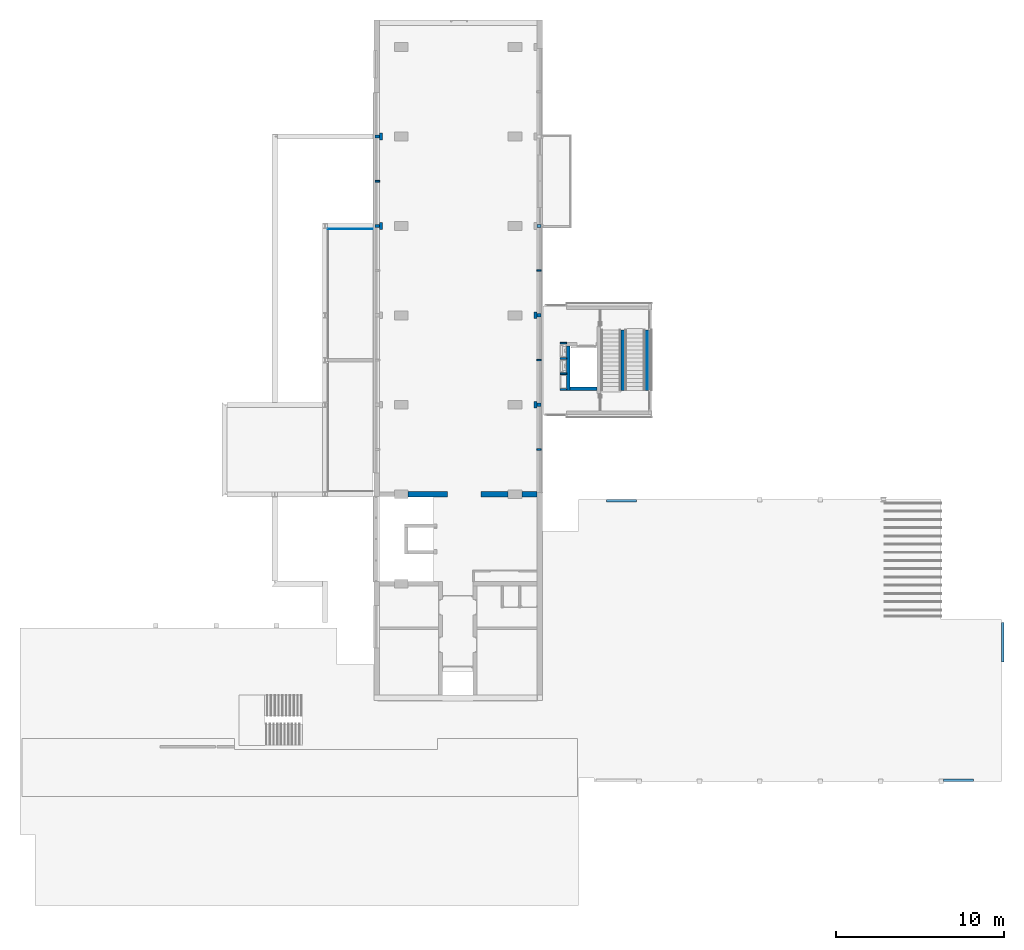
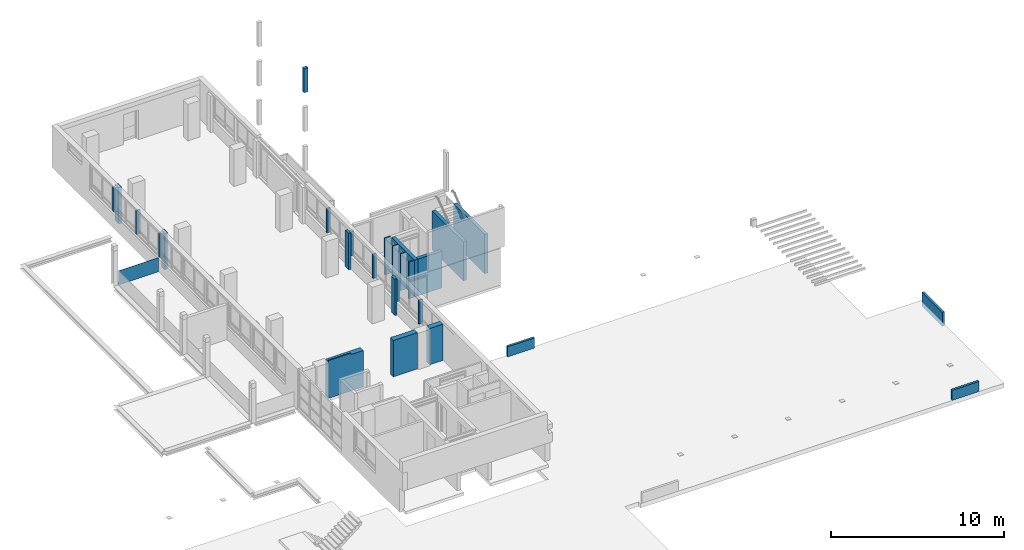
# One storey, part 12 of 22: 27 walls.
"""IFC2X3 building model written with IfcOpenShell, lengths in millimetres."""

from ifc_helpers import new_model, entity, si_unit, converted_unit, derived_unit, money_unit, direction, frame, origin_with_axes, place, context, subcontext, project, spatial, faceted_brep, material, type_object, element, save


model = new_model("IFC2X3")

# Units and contexts
model_context = context("Model", 3, precision=0.01, world=origin_with_axes(), true_north=direction((0.0, 1.0)))
body_context = subcontext(model_context, "Body", "Model", "MODEL_VIEW")
ifc_project = project(units=[si_unit("LENGTHUNIT", "METRE", prefix="MILLI"), si_unit("AREAUNIT", "SQUARE_METRE"), si_unit("VOLUMEUNIT", "CUBIC_METRE"), converted_unit("PLANEANGLEUNIT", "DEGREE", entity("IfcPlaneAngleMeasure", 0.0174532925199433), si_unit("PLANEANGLEUNIT", "RADIAN"), dimensions=[0, 0, 0, 0, 0, 0, 0]), money_unit("EUR"), converted_unit("TIMEUNIT", "Year", entity("IfcTimeMeasure", 31557600.0), si_unit("TIMEUNIT", "SECOND"), dimensions=[0, 0, 1, 0, 0, 0, 0]), si_unit("MASSUNIT", "GRAM", prefix="KILO"), si_unit("THERMODYNAMICTEMPERATUREUNIT", "DEGREE_CELSIUS"), si_unit("LUMINOUSINTENSITYUNIT", "LUMEN"), si_unit("ENERGYUNIT", "JOULE", prefix="MEGA"), derived_unit("THERMALCONDUCTANCEUNIT", [(si_unit("POWERUNIT", "WATT"), 1), (si_unit("LENGTHUNIT", "METRE"), -1), (si_unit("THERMODYNAMICTEMPERATUREUNIT", "KELVIN"), -1)]), derived_unit("SPECIFICHEATCAPACITYUNIT", [(si_unit("ENERGYUNIT", "JOULE"), 1), (si_unit("MASSUNIT", "GRAM", prefix="KILO"), -1), (si_unit("THERMODYNAMICTEMPERATUREUNIT", "KELVIN"), -1)]), derived_unit("MASSDENSITYUNIT", [(si_unit("MASSUNIT", "GRAM", prefix="KILO"), 1), (si_unit("VOLUMEUNIT", "CUBIC_METRE"), -1)])], contexts=[model_context])

# Site, building, storey
site_placement = place(None, origin_with_axes())
site = spatial("IfcSite", under=ifc_project, at=site_placement, Name="Site", CompositionType="ELEMENT")
building_placement = place(site_placement, origin_with_axes())
building = spatial("IfcBuilding", under=site, at=building_placement, Name="Naam gebouw", CompositionType="ELEMENT")
storey_placement = place(building_placement, frame((0.0, 0.0, 8690.0), z_axis=(0.0, 0.0, 1.0), x_axis=(1.0, 0.0, 0.0)))
storey = spatial("IfcBuildingStorey", under=building, at=storey_placement, Name="2e verdieping V", CompositionType="ELEMENT", Elevation=8690.0)

# Walls
ifc_material_1 = material(Name="ALG - CONSTRUCTIEF")
wall_type_1 = type_object("IfcWallType", Name="ALG - CONSTRUCTIEF 400", PredefinedType="NOTDEFINED")
wall_1_placement = place(storey_placement, frame((29745.0, 38615.91242510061, -99.99999999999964), z_axis=(0.0, 0.0, 1.0), x_axis=(1.0, 0.0, 0.0)))
element("IfcWall", 1, at=wall_1_placement, inside=storey, type_object=wall_type_1, material=ifc_material_1, Name="_Wand-x", context=body_context, shape_type="Brep", body=[
    faceted_brep([(0.0, 200.0000000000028, 99.99999999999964), (0.0, 200.0000000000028, 2670.000000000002), (161.0000000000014, 200.0000000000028, 2670.000000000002), (161.0000000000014, 200.0000000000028, 99.99999999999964), (0.0, -200.0000000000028, 99.99999999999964), (0.0, -200.0000000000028, 2670.000000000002), (161.0000000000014, -199.9999999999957, 2670.000000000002), (161.0000000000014, -200.0000000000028, 99.99999999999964)], [[[0, 1, 2, 3]], [[4, 5, 1, 0]], [[5, 6, 2, 1]], [[3, 2, 6, 7]], [[4, 0, 3, 7]], [[7, 6, 5, 4]]]),
])
wall_2_placement = place(storey_placement, frame((20536.0, 43945.9124251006, -99.99999999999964), z_axis=(0.0, 0.0, 1.0), x_axis=(1.0, 0.0, 0.0)))
element("IfcWall", 2, at=wall_2_placement, inside=storey, type_object=wall_type_1, material=ifc_material_1, Name="_Wand-x", context=body_context, shape_type="Brep", body=[
    faceted_brep([(189.0000000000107, 199.9999999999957, 99.99999999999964), (0.0, 200.0000000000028, 99.99999999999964), (0.0, 200.0000000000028, 2670.000000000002), (189.0000000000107, 199.9999999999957, 2670.000000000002), (188.9999999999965, -200.0000000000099, 99.99999999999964), (0.0, -200.0000000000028, 99.99999999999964), (0.0, -200.0000000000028, 2670.000000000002), (188.9999999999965, -200.0000000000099, 2670.000000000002)], [[[0, 1, 2, 3]], [[4, 5, 1, 0]], [[1, 5, 6, 2]], [[2, 6, 7, 3]], [[4, 0, 3, 7]], [[5, 4, 7, 6]]]),
])
wall_3_placement = place(storey_placement, frame((20536.0, 49275.9124251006, -99.99999999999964), z_axis=(0.0, 0.0, 1.0), x_axis=(1.0, 0.0, 0.0)))
element("IfcWall", 3, at=wall_3_placement, inside=storey, type_object=wall_type_1, material=ifc_material_1, Name="_Wand-x", context=body_context, shape_type="Brep", body=[
    faceted_brep([(188.9999999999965, 200.0000000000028, 99.99999999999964), (0.0, 200.0000000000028, 99.99999999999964), (0.0, 200.0000000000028, 2670.000000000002), (188.9999999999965, 200.0000000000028, 2670.000000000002), (188.9999999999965, -200.0000000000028, 99.99999999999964), (0.0, -200.0000000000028, 99.99999999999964), (0.0, -200.0000000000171, 2670.000000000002), (188.9999999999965, -200.0000000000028, 2670.000000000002)], [[[0, 1, 2, 3]], [[4, 5, 1, 0]], [[1, 5, 6, 2]], [[2, 6, 7, 3]], [[4, 0, 3, 7]], [[5, 4, 7, 6]]]),
])
wall_4_placement = place(storey_placement, frame((29745.0, 33285.91242510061, -99.99999999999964), z_axis=(0.0, 0.0, 1.0), x_axis=(1.0, 0.0, 0.0)))
element("IfcWall", 4, at=wall_4_placement, inside=storey, type_object=wall_type_1, material=ifc_material_1, Name="_Wand-x", context=body_context, shape_type="Brep", body=[
    faceted_brep([(0.0, 200.0000000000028, 99.99999999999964), (0.0, 200.0000000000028, 2670.000000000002), (160.9999999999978, 200.0000000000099, 2670.000000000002), (160.9999999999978, 200.0000000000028, 99.99999999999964), (0.0, -200.0000000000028, 99.99999999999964), (0.0, -200.0000000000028, 2670.000000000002), (160.9999999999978, -199.9999999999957, 2670.000000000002), (160.9999999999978, -200.0000000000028, 99.99999999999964)], [[[0, 1, 2, 3]], [[4, 5, 1, 0]], [[5, 6, 2, 1]], [[3, 2, 6, 7]], [[4, 0, 3, 7]], [[7, 6, 5, 4]]]),
])
wall_type_2 = type_object("IfcWallType", Name="ALG - CONSTRUCTIEF 350", PredefinedType="NOTDEFINED")
wall_5_placement = place(storey_placement, frame((26586.0, 27955.91242510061, 0.0), z_axis=(0.0, 0.0, 1.0), x_axis=(1.0, 0.0, 0.0)))
element("IfcWall", 5, at=wall_5_placement, inside=storey, type_object=wall_type_2, material=ifc_material_1, Name="_Wand-x", context=body_context, shape_type="Brep", body=[
    faceted_brep([(0.0, -175.0000000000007, 2570.000000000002), (1609.999999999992, -175.0000000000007, 2570.000000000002), (1609.999999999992, 175.0000000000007, 2570.000000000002), (0.0, 175.0000000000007, 2570.000000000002), (0.0, -175.0000000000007, 0.0), (1609.999999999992, -175.0000000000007, 0.0), (1609.999999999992, 175.0000000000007, 0.0), (0.0, 175.0000000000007, 0.0)], [[[0, 1, 2, 3]], [[4, 5, 1, 0]], [[5, 6, 2, 1]], [[3, 2, 6, 7]], [[3, 7, 4, 0]], [[7, 6, 5, 4]]]),
    faceted_brep([(3319.999999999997, 175.0000000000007, 0.0), (2429.999999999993, 175.0000000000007, 0.0), (2429.999999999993, 175.0000000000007, 2570.000000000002), (3319.999999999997, 175.0000000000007, 2570.000000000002), (3319.999999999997, -175.0000000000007, 0.0), (2429.999999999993, -175.0000000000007, 0.0), (2429.999999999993, -174.9999999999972, 2570.000000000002), (3319.999999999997, -174.9999999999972, 2570.000000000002)], [[[0, 1, 2, 3]], [[4, 5, 1, 0]], [[5, 6, 2, 1]], [[3, 2, 6, 7]], [[0, 3, 7, 4]], [[7, 6, 5, 4]]]),
])
wall_6_placement = place(storey_placement, frame((22189.99999999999, 27955.91242510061, 0.0), z_axis=(0.0, 0.0, 1.0), x_axis=(1.0, 0.0, 0.0)))
element("IfcWall", 6, at=wall_6_placement, inside=storey, type_object=wall_type_2, material=ifc_material_1, Name="_Wand-x", context=body_context, shape_type="Brep", body=[
    faceted_brep([(2399.999999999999, 175.0000000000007, 0.0), (56.00000000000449, 175.0000000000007, 0.0), (56.00000000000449, 175.0000000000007, 2570.000000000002), (2399.999999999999, 175.0000000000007, 2570.000000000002), (2399.999999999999, -175.0000000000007, 0.0), (56.00000000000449, -175.0000000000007, 0.0), (56.00000003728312, -124.9999994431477, 2670.000000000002), (56.00000000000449, -124.9999994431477, 2570.000000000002), (56.00000003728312, -175.0000000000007, 2670.000000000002), (1559.999999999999, -124.9999998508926, 2570.000000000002), (1559.999999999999, -175.0000000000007, 2570.000000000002), (2399.999999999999, -175.0000000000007, 2570.000000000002), (1559.999999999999, -175.0000000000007, 2670.000000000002), (1559.999999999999, -124.9999998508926, 2670.000000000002)], [[[0, 1, 2, 3]], [[4, 5, 1, 0]], [[6, 7, 2, 1, 5, 8]], [[3, 2, 7, 9, 10, 11]], [[4, 0, 3, 11]], [[8, 5, 4, 11, 10, 12]], [[7, 6, 13, 9]], [[6, 8, 12, 13]], [[12, 10, 9, 13]]]),
])
wall_type_3 = type_object("IfcWallType", Name="ALG - CONSTRUCTIEF 146", PredefinedType="NOTDEFINED")
wall_7_placement = place(storey_placement, frame((57599.99999999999, 20325.9124251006, -1339.999999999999), z_axis=(0.0, 0.0, 1.0), x_axis=(0.0, -1.0, 0.0)))
element("IfcWall", 7, at=wall_7_placement, inside=storey, type_object=wall_type_3, material=ifc_material_1, Name="_Wand-x", context=body_context, shape_type="Brep", body=[
    faceted_brep([(0.0, 146.0000000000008, 0.0), (2354.999999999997, 146.0000000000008, 0.0), (2354.999999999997, 0.0, 0.0), (0.0, 0.0, 0.0), (0.0, 146.0000000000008, 986.5000000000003), (2354.999999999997, 146.0000000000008, 986.5000000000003), (2354.999999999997, 0.0, 986.5000000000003), (0.0, 0.0, 986.5000000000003)], [[[0, 1, 2, 3]], [[4, 5, 1, 0]], [[2, 1, 5, 6]], [[3, 2, 6, 7]], [[4, 0, 3, 7]], [[7, 6, 5, 4]]]),
])
wall_8_placement = place(storey_placement, frame((55937.49999999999, 10990.91242510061, -1040.0), z_axis=(0.0, 0.0, 1.0), x_axis=(-1.0, 0.0, 0.0)))
element("IfcWall", 8, at=wall_8_placement, inside=storey, type_object=wall_type_3, material=ifc_material_1, Name="_Wand-x", context=body_context, shape_type="Brep", body=[
    faceted_brep([(0.0, 146.0000000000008, 0.0), (1799.999999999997, 145.999999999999, 0.0), (1799.999999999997, 0.0, 0.0), (0.0, 0.0, 0.0), (0.0, 146.0000000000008, 720.0000000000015), (1799.999999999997, 146.0000000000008, 720.0000000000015), (1799.999999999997, 0.0, 720.0000000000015), (0.0, 0.0, 720.0000000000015)], [[[0, 1, 2, 3]], [[4, 5, 1, 0]], [[2, 1, 5, 6]], [[3, 2, 6, 7]], [[4, 0, 3, 7]], [[7, 6, 5, 4]]]),
])
wall_9_placement = place(storey_placement, frame((35862.49999999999, 27505.91242510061, -1039.999999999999), z_axis=(0.0, 0.0, 1.0), x_axis=(-1.0, 0.0, 0.0)))
element("IfcWall", 9, at=wall_9_placement, inside=storey, type_object=wall_type_3, material=ifc_material_1, Name="_Wand-x", context=body_context, shape_type="Brep", body=[
    faceted_brep([(0.0, -146.0000000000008, 720.0000000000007), (1799.99999999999, -146.0000000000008, 720.0000000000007), (1799.99999999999, 0.0, 720.0000000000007), (0.0, 0.0, 720.0000000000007), (0.0, -146.0000000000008, 0.0), (1799.99999999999, -146.0000000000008, 0.0), (1799.99999999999, 0.0, 0.0), (0.0, 0.0, 0.0)], [[[0, 1, 2, 3]], [[4, 5, 1, 0]], [[2, 1, 5, 6]], [[3, 2, 6, 7]], [[4, 0, 3, 7]], [[7, 6, 5, 4]]]),
])
ifc_material_2 = material(Name="kalkzandsteen")
wall_type_4 = type_object("IfcWallType", Name="Basic Wall:NLRS_28_kalkzandsteen 100mm", PredefinedType="STANDARD")
wall_10_placement = place(storey_placement, frame((31684.00000003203, 36963.91242631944, 0.0), z_axis=(0.0, 0.0, 1.0), x_axis=(-1.0, -1.481110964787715e-10, 0.0)))
element("IfcWall", 10, at=wall_10_placement, inside=storey, type_object=wall_type_4, material=ifc_material_2, Name="Basic Wall:NLRS_28_kalkzandsteen 100mm", context=body_context, shape_type="Brep", body=[
    faceted_brep([(7.407408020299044e-09, 50.00000004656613, 0.0), (392.9999999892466, 49.99999998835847, 0.0), (392.9999999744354, -50.00000004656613, 0.0), (-7.403855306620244e-09, -49.99999998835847, 0.0), (7.407408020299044e-09, 50.00000004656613, 2600.000000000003), (392.9999999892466, 49.99999998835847, 2600.000000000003), (392.9999999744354, -50.00000004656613, 2600.000000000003), (-7.403855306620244e-09, -49.99999998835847, 2600.000000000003)], [[[0, 1, 2, 3]], [[4, 5, 1, 0]], [[2, 1, 5, 6]], [[3, 2, 6, 7]], [[4, 0, 3, 7]], [[7, 6, 5, 4]]]),
])
wall_11_placement = place(storey_placement, frame((31791.00000002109, 36049.91242627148, 0.0), z_axis=(0.0, 0.0, 1.0), x_axis=(-1.0, 0.0, 0.0)))
element("IfcWall", 11, at=wall_11_placement, inside=storey, type_object=wall_type_4, material=ifc_material_2, Name="Basic Wall:NLRS_28_kalkzandsteen 100mm", context=body_context, shape_type="Brep", body=[
    faceted_brep([(106.999999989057, 49.99999998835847, 0.0), (499.9999999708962, 49.99999998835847, 0.0), (499.9999999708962, -49.99999998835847, 0.0), (106.999999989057, -49.99999998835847, 0.0), (106.999999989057, 49.99999998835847, 2600.000000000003), (499.9999999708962, 49.99999998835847, 2600.000000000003), (499.9999999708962, -49.99999998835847, 2600.000000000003), (106.999999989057, -49.99999998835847, 2600.000000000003)], [[[0, 1, 2, 3]], [[4, 5, 1, 0]], [[2, 1, 5, 6]], [[3, 2, 6, 7]], [[4, 0, 3, 7]], [[7, 6, 5, 4]]]),
])
wall_12_placement = place(storey_placement, frame((31791.00000002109, 35135.91242628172, 0.0), z_axis=(0.0, 0.0, 1.0), x_axis=(-1.0, 0.0, 0.0)))
element("IfcWall", 12, at=wall_12_placement, inside=storey, type_object=wall_type_4, material=ifc_material_2, Name="Basic Wall:NLRS_28_kalkzandsteen 100mm", context=body_context, shape_type="Brep", body=[
    faceted_brep([(106.999999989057, 50.00000004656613, 0.0), (499.9999999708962, 50.00000004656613, 0.0), (499.9999999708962, -50.00000004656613, 0.0), (106.999999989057, -50.00000004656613, 0.0), (106.999999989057, 50.00000004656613, 2600.000000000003), (499.9999999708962, 50.00000004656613, 2600.000000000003), (499.9999999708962, -50.00000004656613, 2600.000000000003), (106.999999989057, -50.00000004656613, 2600.000000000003)], [[[0, 1, 2, 3]], [[4, 5, 1, 0]], [[2, 1, 5, 6]], [[3, 2, 6, 7]], [[4, 0, 3, 7]], [[7, 6, 5, 4]]]),
])
wall_13_placement = place(storey_placement, frame((31684.00000000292, 34195.9124263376, 0.0), z_axis=(0.0, 0.0, 1.0), x_axis=(-1.0, 0.0, 0.0)))
element("IfcWall", 13, at=wall_13_placement, inside=storey, type_object=wall_type_4, material=ifc_material_2, Name="Basic Wall:NLRS_28_kalkzandsteen 100mm", context=body_context, shape_type="Brep", body=[
    faceted_brep([(0.0, 49.99999998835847, 0.0), (392.9999999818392, 49.99999998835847, 0.0), (392.9999999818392, -50.00000004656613, 0.0), (0.0, -50.00000004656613, 0.0), (0.0, 49.99999998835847, 2600.000000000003), (392.9999999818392, 49.99999998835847, 2600.000000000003), (392.9999999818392, -50.00000004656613, 2600.000000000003), (0.0, -50.00000004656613, 2600.000000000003)], [[[0, 1, 2, 3]], [[4, 5, 1, 0]], [[2, 1, 5, 6]], [[3, 2, 6, 7]], [[4, 0, 3, 7]], [[7, 6, 5, 4]]]),
])
wall_type_5 = type_object("IfcWallType", Name="Basic Wall:NLRS_28_kalkzandsteen 214mm", PredefinedType="STANDARD")
wall_14_placement = place(storey_placement, frame((33605.00000000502, 34252.91242630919, 0.0), z_axis=(0.0, 0.0, 1.0), x_axis=(-1.0, 0.0, 0.0)))
element("IfcWall", 14, at=wall_14_placement, inside=storey, type_object=wall_type_5, material=ifc_material_2, Name="Basic Wall:NLRS_28_kalkzandsteen 214mm", context=body_context, shape_type="Brep", body=[
    faceted_brep([(1706.999999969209, 106.9999999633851, 0.0), (1706.999999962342, -107.0000000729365, 0.0), (107.0000000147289, -107.0000000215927, 0.0), (107.0000000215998, 107.0000000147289, 0.0), (1706.999999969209, 106.9999999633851, 2600.000000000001), (1706.999999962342, -107.0000000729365, 2600.000000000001), (107.0000000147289, -107.0000000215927, 2600.000000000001), (107.0000000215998, 107.0000000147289, 2600.000000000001)], [[[0, 1, 2, 3]], [[1, 0, 4, 5]], [[1, 5, 6, 2]], [[7, 3, 2, 6]], [[4, 0, 3, 7]], [[5, 4, 7, 6]]]),
])
wall_15_placement = place(storey_placement, frame((35039.00000004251, 34145.91242629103, 0.0), z_axis=(0.0, 0.0, 1.0), x_axis=(0.0, 1.0, 0.0)))
element("IfcWall", 15, at=wall_15_placement, inside=storey, type_object=wall_type_5, material=ifc_material_2, Name="Basic Wall:NLRS_28_kalkzandsteen 214mm", context=body_context, shape_type="Brep", body=[
    faceted_brep([(0.0, 106.999999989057, 0.0), (3599.999999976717, 106.999999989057, 0.0), (3599.999999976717, -107.0000000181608, 0.0), (0.0, -107.0000000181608, 0.0), (0.0, 106.999999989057, 2770.000000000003), (3599.999999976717, 106.999999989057, 2770.000000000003), (3599.999999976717, -107.0000000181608, 2770.000000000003), (0.0, -107.0000000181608, 2770.000000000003)], [[[0, 1, 2, 3]], [[4, 5, 1, 0]], [[2, 1, 5, 6]], [[3, 2, 6, 7]], [[4, 0, 3, 7]], [[7, 6, 5, 4]]]),
])
wall_16_placement = place(storey_placement, frame((31791.00000002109, 36906.91242628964, 0.0), z_axis=(0.0, 0.0, 1.0), x_axis=(0.0, -1.0, 0.0)))
element("IfcWall", 16, at=wall_16_placement, inside=storey, type_object=wall_type_5, material=ifc_material_2, Name="Basic Wall:NLRS_28_kalkzandsteen 214mm", context=body_context, shape_type="Brep", body=[
    faceted_brep([(2761.000000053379, 107.0000000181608, 0.0), (107.0000001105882, 107.0000000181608, 0.0), (107.0000000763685, 107.0000000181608, 2600.000000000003), (2761.000000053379, 107.0000000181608, 2600.000000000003), (2761.000000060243, -106.999999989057, 0.0), (107.0000000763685, -106.999999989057, 0.0), (107.0000000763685, -106.999999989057, 2600.000000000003), (2761.000000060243, -106.999999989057, 2600.000000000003)], [[[0, 1, 2, 3]], [[4, 5, 1, 0]], [[5, 6, 2, 1]], [[3, 2, 6, 7]], [[4, 0, 3, 7]], [[7, 6, 5, 4]]]),
])
wall_17_placement = place(storey_placement, frame((36473.00000005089, 37745.91242626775, 0.0), z_axis=(0.0, 0.0, 1.0), x_axis=(0.0, -1.0, 0.0)))
element("IfcWall", 17, at=wall_17_placement, inside=storey, type_object=wall_type_5, material=ifc_material_2, Name="Basic Wall:NLRS_28_kalkzandsteen 214mm", context=body_context, shape_type="Brep", body=[
    faceted_brep([(0.0, 106.999999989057, 0.0), (3599.999999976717, 106.999999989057, 0.0), (3599.999999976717, -107.0000000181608, 0.0), (0.0, -107.0000000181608, 0.0), (0.0, 106.999999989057, 2770.000000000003), (3599.999999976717, 106.999999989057, 2770.000000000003), (3599.999999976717, -107.0000000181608, 2770.000000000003), (0.0, -107.0000000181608, 2770.000000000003)], [[[0, 1, 2, 3]], [[4, 5, 1, 0]], [[2, 1, 5, 6]], [[3, 2, 6, 7]], [[4, 0, 3, 7]], [[7, 6, 5, 4]]]),
])
wall_type_6 = type_object("IfcWallType", Name="ALG - CONSTRUCTIEF 260", PredefinedType="NOTDEFINED")
wall_18_placement = place(storey_placement, frame((20276.0, 46560.94495551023, 849.9999999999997), z_axis=(0.0, 0.0, 1.0), x_axis=(0.0, 1.0, 0.0)))
element("IfcWall", 18, at=wall_18_placement, inside=storey, type_object=wall_type_6, material=ifc_material_1, Name="_Wand-x", context=body_context, shape_type="Brep", body=[
    faceted_brep([(100.0000000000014, 0.0, 0.0), (100.0000000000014, 0.0, 15.60184484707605), (100.0000000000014, -7.00000000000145, 16.83613371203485), (100.0000000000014, -7.00000000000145, 28.51433297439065), (100.0000000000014, -4.999999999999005, 28.51433297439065), (100.0000000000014, -4.999999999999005, 18.51433297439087), (100.0000000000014, 0.0, 17.63269807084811), (100.0000000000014, 0.0, 1699.999999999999), (99.99999999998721, -260.0000000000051, 1699.999999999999), (99.99999999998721, -260.0000000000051, 0.0), (0.0, 0.0, 0.0), (0.0, 0.0, 15.60184484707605), (0.0, -6.999999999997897, 16.83613371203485), (0.0, -6.999999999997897, 28.51433297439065), (0.0, -4.999999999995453, 28.51433297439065), (0.0, -4.999999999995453, 18.51433297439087), (0.0, 0.0, 17.63269807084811), (0.0, 0.0, 1699.999999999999), (0.0, -260.0000000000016, 1699.999999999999), (0.0, -260.0000000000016, 0.0)], [[[0, 1, 2, 3, 4, 5, 6, 7, 8, 9]], [[10, 11, 1, 0]], [[12, 2, 1, 11]], [[13, 3, 2, 12]], [[14, 4, 3, 13]], [[15, 5, 4, 14]], [[16, 6, 5, 15]], [[7, 6, 16, 17]], [[17, 18, 8, 7]], [[18, 19, 9, 8]], [[19, 10, 0, 9]], [[13, 12, 11, 10, 19, 18, 17, 16, 15, 14]]]),
])
wall_19_placement = place(storey_placement, frame((30166.0, 41230.9124251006, 849.9999999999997), z_axis=(0.0, 0.0, 1.0), x_axis=(0.0, 1.0, 0.0)))
element("IfcWall", 19, at=wall_19_placement, inside=storey, type_object=wall_type_6, material=ifc_material_1, Name="_Wand-x", context=body_context, shape_type="Brep", body=[
    faceted_brep([(0.0, 0.0, 1699.999999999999), (0.0, 0.0, 17.63269807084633), (100.0000000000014, 0.0, 17.63269807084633), (100.0000000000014, 0.0, 1699.999999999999), (0.0, 5.000000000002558, 28.51433297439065), (0.0, 5.000000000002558, 18.51433297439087), (0.0, 260.0000000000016, 1699.999999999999), (0.0, 260.0000000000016, 0.0), (0.0, 0.0, 0.0), (0.0, 0.0, 15.60184484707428), (0.0, 7.000000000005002, 16.83613371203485), (0.0, 7.000000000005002, 28.51433297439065), (100.0000000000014, 5.000000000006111, 18.51433297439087), (100.0000000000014, 7.000000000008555, 28.51433297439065), (100.0000000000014, 7.000000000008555, 16.83613371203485), (100.0000000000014, 0.0, 15.60184484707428), (100.0000000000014, 0.0, 0.0), (99.99999999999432, 260.0000000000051, 0.0), (99.99999999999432, 260.0000000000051, 1699.999999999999), (100.0000000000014, 5.000000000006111, 28.51433297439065)], [[[0, 1, 2, 3]], [[4, 5, 1, 0, 6, 7, 8, 9, 10, 11]], [[5, 12, 2, 1]], [[13, 14, 15, 16, 17, 18, 3, 2, 12, 19]], [[6, 0, 3, 18]], [[4, 19, 12, 5]], [[7, 6, 18, 17]], [[8, 7, 17, 16]], [[16, 15, 9, 8]], [[10, 9, 15, 14]], [[10, 14, 13, 11]], [[11, 13, 19, 4]]]),
])
wall_20_placement = place(storey_placement, frame((30166.0, 43845.91242510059, 9159.999999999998), z_axis=(0.0, 0.0, 1.0), x_axis=(0.0, 1.0, 0.0)))
element("IfcWall", 20, at=wall_20_placement, inside=storey, type_object=wall_type_6, material=ifc_material_1, Name="_Wand-x", context=body_context, shape_type="Brep", body=[
    faceted_brep([(0.0, 0.0, 1699.999999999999), (0.0, 0.0, 17.63269807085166), (199.9999999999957, 0.0, 17.63269807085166), (199.9999999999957, 0.0, 1699.999999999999), (0.0, 5.000000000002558, 28.51433297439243), (0.0, 5.000000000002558, 18.51433297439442), (0.0, 260.0000000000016, 1699.999999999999), (0.0, 260.0000000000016, 0.0), (0.0, 0.0, 0.0), (0.0, 0.0, 15.6018448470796), (0.0, 7.000000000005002, 16.83613371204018), (0.0, 7.000000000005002, 28.51433297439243), (199.9999999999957, 5.000000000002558, 18.51433297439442), (199.9999999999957, 7.000000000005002, 28.51433297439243), (199.9999999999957, 7.000000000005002, 16.83613371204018), (199.9999999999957, 0.0, 15.6018448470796), (199.9999999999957, 0.0, 0.0), (199.9999999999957, 260.0000000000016, 0.0), (199.9999999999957, 260.0000000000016, 1699.999999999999), (199.9999999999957, 5.000000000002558, 28.51433297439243)], [[[0, 1, 2, 3]], [[4, 5, 1, 0, 6, 7, 8, 9, 10, 11]], [[5, 12, 2, 1]], [[13, 14, 15, 16, 17, 18, 3, 2, 12, 19]], [[6, 0, 3, 18]], [[4, 19, 12, 5]], [[7, 6, 18, 17]], [[8, 7, 17, 16]], [[16, 15, 9, 8]], [[10, 9, 15, 14]], [[10, 14, 13, 11]], [[11, 13, 19, 4]]]),
])
wall_21_placement = place(storey_placement, frame((20276.0, 43845.91242510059, 849.9999999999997), z_axis=(0.0, 0.0, 1.0), x_axis=(0.0, 1.0, 0.0)))
element("IfcWall", 21, at=wall_21_placement, inside=storey, type_object=wall_type_6, material=ifc_material_1, Name="_Wand-x", context=body_context, shape_type="Brep", body=[
    faceted_brep([(200.0000000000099, 0.0, 0.0), (200.0000000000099, 0.0, 15.60184484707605), (200.0000000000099, -6.999999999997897, 16.83613371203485), (200.0000000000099, -6.999999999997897, 28.51433297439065), (200.0000000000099, -4.999999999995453, 28.51433297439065), (200.0000000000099, -4.999999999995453, 18.51433297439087), (200.0000000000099, 0.0, 17.63269807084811), (200.0000000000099, 0.0, 1699.999999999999), (200.0000000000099, -260.0000000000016, 1699.999999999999), (200.0000000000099, -260.0000000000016, 0.0), (0.0, 0.0, 0.0), (0.0, 0.0, 15.60184484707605), (0.0, -6.999999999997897, 16.83613371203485), (0.0, -6.999999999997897, 28.51433297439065), (0.0, -4.999999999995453, 28.51433297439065), (0.0, -4.999999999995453, 18.51433297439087), (0.0, 0.0, 17.63269807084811), (0.0, 0.0, 1699.999999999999), (0.0, -260.0000000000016, 1699.999999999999), (0.0, -260.0000000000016, 0.0)], [[[0, 1, 2, 3, 4, 5, 6, 7, 8, 9]], [[10, 11, 1, 0]], [[12, 2, 1, 11]], [[13, 3, 2, 12]], [[14, 4, 3, 13]], [[15, 5, 4, 14]], [[16, 6, 5, 15]], [[7, 6, 16, 17]], [[17, 18, 8, 7]], [[18, 19, 9, 8]], [[19, 10, 0, 9]], [[13, 12, 11, 10, 19, 18, 17, 16, 15, 14]]]),
])
wall_22_placement = place(storey_placement, frame((30166.0, 38515.9124251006, 849.9999999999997), z_axis=(0.0, 0.0, 1.0), x_axis=(0.0, 1.0, 0.0)))
element("IfcWall", 22, at=wall_22_placement, inside=storey, type_object=wall_type_6, material=ifc_material_1, Name="_Wand-x", context=body_context, shape_type="Brep", body=[
    faceted_brep([(0.0, 0.0, 1699.999999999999), (0.0, 0.0, 17.63269807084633), (199.9999999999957, 0.0, 17.63269807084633), (199.9999999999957, 0.0, 1699.999999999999), (0.0, 5.000000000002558, 28.51433297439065), (0.0, 5.000000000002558, 18.51433297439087), (0.0, 260.0000000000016, 1699.999999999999), (0.0, 260.0000000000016, 0.0), (0.0, 0.0, 0.0), (0.0, 0.0, 15.60184484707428), (0.0, 7.000000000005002, 16.83613371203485), (0.0, 7.000000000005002, 28.51433297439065), (199.9999999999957, 5.000000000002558, 18.51433297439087), (199.9999999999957, 7.000000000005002, 28.51433297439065), (199.9999999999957, 7.000000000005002, 16.83613371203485), (199.9999999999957, 0.0, 15.60184484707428), (199.9999999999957, 0.0, 0.0), (199.9999999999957, 260.0000000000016, 0.0), (199.9999999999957, 260.0000000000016, 1699.999999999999), (199.9999999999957, 5.000000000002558, 28.51433297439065)], [[[0, 1, 2, 3]], [[4, 5, 1, 0, 6, 7, 8, 9, 10, 11]], [[5, 12, 2, 1]], [[13, 14, 15, 16, 17, 18, 3, 2, 12, 19]], [[6, 0, 3, 18]], [[4, 19, 12, 5]], [[7, 6, 18, 17]], [[8, 7, 17, 16]], [[16, 15, 9, 8]], [[10, 9, 15, 14]], [[10, 14, 13, 11]], [[11, 13, 19, 4]]]),
])
wall_23_placement = place(storey_placement, frame((30166.0, 35900.91242510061, 849.9999999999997), z_axis=(0.0, 0.0, 1.0), x_axis=(0.0, 1.0, 0.0)))
element("IfcWall", 23, at=wall_23_placement, inside=storey, type_object=wall_type_6, material=ifc_material_1, Name="_Wand-x", context=body_context, shape_type="Brep", body=[
    faceted_brep([(0.0, 0.0, 1699.999999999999), (0.0, 0.0, 17.63269807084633), (100.0000000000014, 0.0, 17.63269807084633), (100.0000000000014, 0.0, 1699.999999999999), (0.0, 5.000000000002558, 28.51433297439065), (0.0, 5.000000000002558, 18.51433297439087), (0.0, 260.0000000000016, 1699.999999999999), (0.0, 260.0000000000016, 0.0), (0.0, 0.0, 0.0), (0.0, 0.0, 15.60184484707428), (0.0, 7.000000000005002, 16.83613371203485), (0.0, 7.000000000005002, 28.51433297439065), (100.0000000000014, 5.000000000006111, 18.51433297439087), (100.0000000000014, 7.000000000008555, 28.51433297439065), (100.0000000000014, 7.000000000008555, 16.83613371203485), (100.0000000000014, 0.0, 15.60184484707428), (100.0000000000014, 0.0, 0.0), (99.99999999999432, 260.0000000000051, 0.0), (99.99999999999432, 260.0000000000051, 1699.999999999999), (100.0000000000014, 5.000000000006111, 28.51433297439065)], [[[0, 1, 2, 3]], [[4, 5, 1, 0, 6, 7, 8, 9, 10, 11]], [[5, 12, 2, 1]], [[13, 14, 15, 16, 17, 18, 3, 2, 12, 19]], [[6, 0, 3, 18]], [[4, 19, 12, 5]], [[7, 6, 18, 17]], [[8, 7, 17, 16]], [[16, 15, 9, 8]], [[10, 9, 15, 14]], [[10, 14, 13, 11]], [[11, 13, 19, 4]]]),
])
wall_24_placement = place(storey_placement, frame((20276.0, 49175.94495551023, 849.9999999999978), z_axis=(0.0, 0.0, 1.0), x_axis=(0.0, 1.0, 0.0)))
element("IfcWall", 24, at=wall_24_placement, inside=storey, type_object=wall_type_6, material=ifc_material_1, Name="_Wand-x", context=body_context, shape_type="Brep", body=[
    faceted_brep([(199.9349391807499, 0.0, 0.0), (199.9349391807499, 0.0, 15.60184484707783), (199.9349391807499, -7.00000000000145, 16.83613371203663), (199.9349391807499, -7.00000000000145, 28.51433297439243), (199.9349391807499, -4.999999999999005, 28.51433297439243), (199.9349391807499, -4.999999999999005, 18.51433297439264), (199.9349391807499, 0.0, 17.63269807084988), (199.9349391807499, 0.0, 1700.000000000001), (199.9349391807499, -260.0000000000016, 1700.000000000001), (199.9349391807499, -260.0000000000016, 0.0), (0.0, 0.0, 0.0), (0.0, 0.0, 15.60184484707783), (0.0, -7.00000000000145, 16.83613371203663), (0.0, -7.00000000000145, 28.51433297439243), (0.0, -4.999999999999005, 28.51433297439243), (0.0, -4.999999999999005, 18.51433297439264), (0.0, 0.0, 17.63269807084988), (0.0, 0.0, 1700.000000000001), (0.0, -260.0000000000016, 1700.000000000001), (0.0, -260.0000000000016, 0.0)], [[[0, 1, 2, 3, 4, 5, 6, 7, 8, 9]], [[10, 11, 1, 0]], [[12, 2, 1, 11]], [[13, 3, 2, 12]], [[14, 4, 3, 13]], [[15, 5, 4, 14]], [[16, 6, 5, 15]], [[7, 6, 16, 17]], [[17, 18, 8, 7]], [[18, 19, 9, 8]], [[19, 10, 0, 9]], [[13, 12, 11, 10, 19, 18, 17, 16, 15, 14]]]),
])
wall_25_placement = place(storey_placement, frame((30166.0, 30570.91242510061, 849.9999999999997), z_axis=(0.0, 0.0, 1.0), x_axis=(0.0, 1.0, 0.0)))
element("IfcWall", 25, at=wall_25_placement, inside=storey, type_object=wall_type_6, material=ifc_material_1, Name="_Wand-x", context=body_context, shape_type="Brep", body=[
    faceted_brep([(0.0, 0.0, 1699.999999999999), (0.0, 0.0, 17.63269807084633), (100.0000000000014, 0.0, 17.63269807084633), (100.0000000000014, 0.0, 1699.999999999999), (0.0, 5.000000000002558, 28.51433297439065), (0.0, 5.000000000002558, 18.51433297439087), (0.0, 260.0000000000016, 1699.999999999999), (0.0, 260.0000000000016, 0.0), (0.0, 0.0, 0.0), (0.0, 0.0, 15.60184484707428), (0.0, 7.000000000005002, 16.83613371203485), (0.0, 7.000000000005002, 28.51433297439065), (100.0000000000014, 5.000000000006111, 18.51433297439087), (100.0000000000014, 7.000000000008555, 28.51433297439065), (100.0000000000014, 7.000000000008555, 16.83613371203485), (100.0000000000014, 0.0, 15.60184484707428), (100.0000000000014, 0.0, 0.0), (99.99999999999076, 260.0000000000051, 0.0), (99.99999999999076, 260.0000000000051, 1699.999999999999), (100.0000000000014, 5.000000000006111, 28.51433297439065)], [[[0, 1, 2, 3]], [[4, 5, 1, 0, 6, 7, 8, 9, 10, 11]], [[5, 12, 2, 1]], [[13, 14, 15, 16, 17, 18, 3, 2, 12, 19]], [[6, 0, 3, 18]], [[4, 19, 12, 5]], [[7, 6, 18, 17]], [[8, 7, 17, 16]], [[16, 15, 9, 8]], [[10, 9, 15, 14]], [[10, 14, 13, 11]], [[11, 13, 19, 4]]]),
])
wall_26_placement = place(storey_placement, frame((30166.0, 33185.91242510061, 849.9999999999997), z_axis=(0.0, 0.0, 1.0), x_axis=(0.0, 1.0, 0.0)))
element("IfcWall", 26, at=wall_26_placement, inside=storey, type_object=wall_type_6, material=ifc_material_1, Name="_Wand-x", context=body_context, shape_type="Brep", body=[
    faceted_brep([(0.0, 0.0, 1699.999999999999), (0.0, 0.0, 17.63269807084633), (199.9999999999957, 0.0, 17.63269807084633), (199.9999999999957, 0.0, 1699.999999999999), (0.0, 5.000000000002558, 28.51433297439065), (0.0, 5.000000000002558, 18.51433297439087), (0.0, 260.0000000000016, 1699.999999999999), (0.0, 260.0000000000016, 0.0), (0.0, 0.0, 0.0), (0.0, 0.0, 15.60184484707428), (0.0, 7.000000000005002, 16.83613371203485), (0.0, 7.000000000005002, 28.51433297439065), (199.9999999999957, 5.000000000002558, 18.51433297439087), (199.9999999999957, 7.000000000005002, 28.51433297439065), (199.9999999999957, 7.000000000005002, 16.83613371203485), (199.9999999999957, 0.0, 15.60184484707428), (199.9999999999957, 0.0, 0.0), (199.9999999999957, 260.0000000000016, 0.0), (199.9999999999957, 260.0000000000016, 1699.999999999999), (199.9999999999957, 5.000000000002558, 28.51433297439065)], [[[0, 1, 2, 3]], [[4, 5, 1, 0, 6, 7, 8, 9, 10, 11]], [[5, 12, 2, 1]], [[13, 14, 15, 16, 17, 18, 3, 2, 12, 19]], [[6, 0, 3, 18]], [[4, 19, 12, 5]], [[7, 6, 18, 17]], [[8, 7, 17, 16]], [[16, 15, 9, 8]], [[10, 9, 15, 14]], [[10, 14, 13, 11]], [[11, 13, 19, 4]]]),
])
ifc_material_3 = material(Name="glas gehard")
wall_type_7 = type_object("IfcWallType", Name="Basic Wall:34_WA_hard glazen balustrade", PredefinedType="STANDARD")
wall_27_placement = place(storey_placement, frame((20141.00000002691, 43765.91242628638, 0.0), z_axis=(0.0, 0.0, 1.0), x_axis=(-1.0, 0.0, 0.0)))
element("IfcWall", 27, at=wall_27_placement, inside=storey, type_object=wall_type_7, material=ifc_material_3, Name="Basic Wall:34_WA_hard glazen balustrade", context=body_context, shape_type="Brep", body=[
    faceted_brep([(2674.999999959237, -5.000000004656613, 0.0), (0.0, -5.000000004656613, 0.0), (0.0, 5.000000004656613, 0.0), (2674.999999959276, 5.000000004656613, 0.0), (2674.999999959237, -5.000000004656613, 1000.0), (0.0, -5.000000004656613, 1000.0), (0.0, 5.000000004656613, 1000.0), (2674.999999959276, 5.000000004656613, 1000.0)], [[[0, 1, 2, 3]], [[4, 5, 1, 0]], [[2, 1, 5, 6]], [[3, 2, 6, 7]], [[3, 7, 4, 0]], [[7, 6, 5, 4]]]),
])

save(model, "model.ifc")
